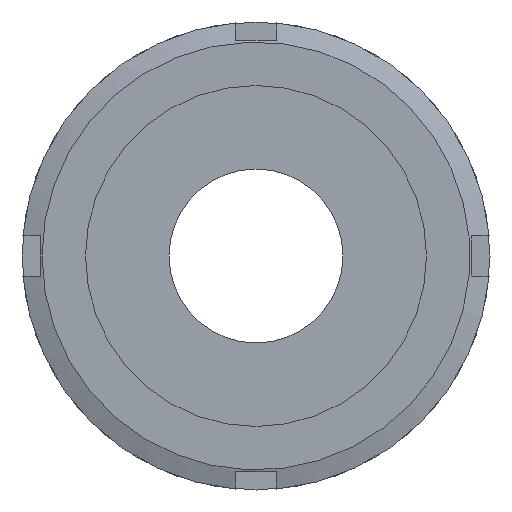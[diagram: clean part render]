
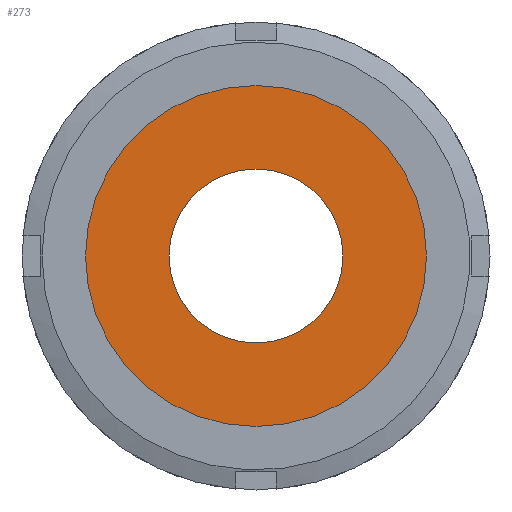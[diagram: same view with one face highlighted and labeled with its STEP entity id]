
A CAD part, left-side view. The second image highlights one B-rep face of the part: STEP entity #273.
In plain terms, the highlighted planar face has unit normal (-1, 0, 0) as drawn and (0, -1, 0) by its records, which use the part's own axes.
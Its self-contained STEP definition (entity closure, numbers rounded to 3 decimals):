
#273 = ADVANCED_FACE( '', ( #402, #403 ), #404, .T. );
#402 = FACE_OUTER_BOUND( '', #610, .T. );
#403 = FACE_BOUND( '', #611, .T. );
#404 = PLANE( '', #612 );
#610 = EDGE_LOOP( '', ( #961 ) );
#611 = EDGE_LOOP( '', ( #962 ) );
#612 = AXIS2_PLACEMENT_3D( '', #963, #964, #965 );
#961 = ORIENTED_EDGE( '', *, *, #1422, .T. );
#962 = ORIENTED_EDGE( '', *, *, #1423, .F. );
#963 = CARTESIAN_POINT( '', ( 13., 0., 0. ) );
#964 = DIRECTION( '', ( 0., -1., 0. ) );
#965 = DIRECTION( '', ( 0., 0., -1. ) );
#1422 = EDGE_CURVE( '', #1649, #1649, #1650, .T. );
#1423 = EDGE_CURVE( '', #1651, #1651, #1652, .T. );
#1649 = VERTEX_POINT( '', #2105 );
#1650 = CIRCLE( '', #2106, 25.5 );
#1651 = VERTEX_POINT( '', #2107 );
#1652 = CIRCLE( '', #2108, 13. );
#2105 = CARTESIAN_POINT( '', ( 0., 0., -25.5 ) );
#2106 = AXIS2_PLACEMENT_3D( '', #2580, #2581, #2582 );
#2107 = CARTESIAN_POINT( '', ( 0., 0., -13. ) );
#2108 = AXIS2_PLACEMENT_3D( '', #2583, #2584, #2585 );
#2580 = CARTESIAN_POINT( '', ( 0., 0., 0. ) );
#2581 = DIRECTION( '', ( 0., -1., 0. ) );
#2582 = DIRECTION( '', ( 0., 0., -1. ) );
#2583 = CARTESIAN_POINT( '', ( 0., 0., 0. ) );
#2584 = DIRECTION( '', ( 0., -1., 0. ) );
#2585 = DIRECTION( '', ( 0., 0., -1. ) );
